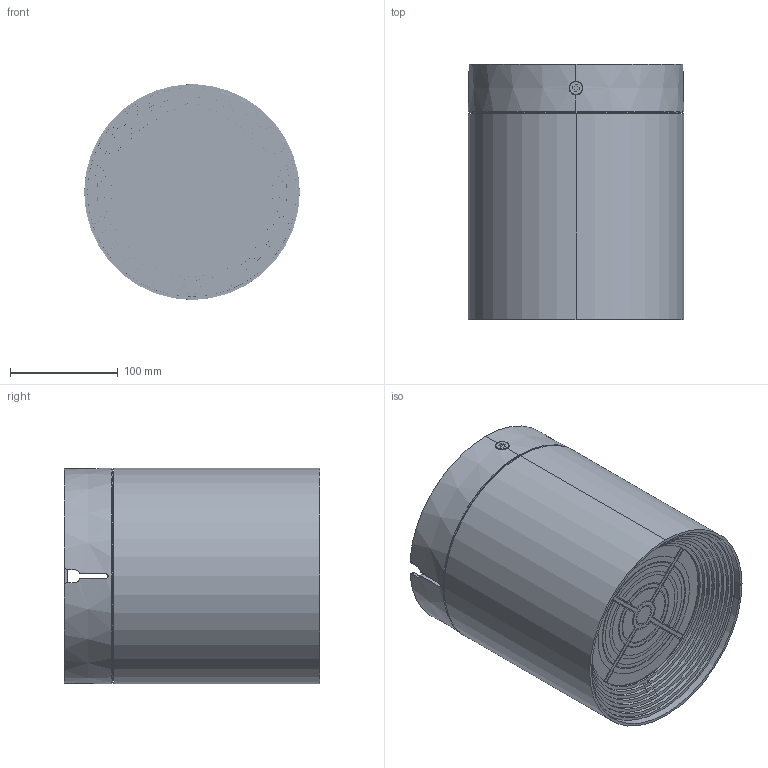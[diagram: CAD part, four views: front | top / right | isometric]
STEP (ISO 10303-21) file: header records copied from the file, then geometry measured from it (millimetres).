
FILE_DESCRIPTION((''),'2;1');
FILE_NAME('200-XIDINGDENG_ASM','2024-11-22T',('Administrator'),(''),'CREO PARAMETRIC BY PTC INC, 2014500','CREO PARAMETRIC BY PTC INC, 2014500','');
FILE_SCHEMA(('CONFIG_CONTROL_DESIGN'));
Length unit declared in the file: millimetre
Products named in the file (50): 200-DT; 200-SANREGUAN; 200-SANREBAN; 200-SANREGUAN_ASM; 200-ZHIZHANGBAN; 200-FANGSHUITIAO-00; 200-MG; 200-BOLI-01; 8ER-HOUGAI; 50WQUDONG; 8ER-XINBIZUO; 8XHGUAPIAN; 8-200-180_PG9_PART1_V3_ANY; 8-200-180_PG9_PART2_V3_ANY; 8-200-180_PG9_PART3_V3_ANY; 200-PG9_ASM; ISO4762-M6X10-8_8_2_94; HOUGAIFANGSHUITIAO; M6FT; 3BJ-JUEYUANMUZUHE; 8ER-FGQ; 8ERFANGXUANWANG; 8ER-NEIYUAN; TOU_JING_D90_H23_ZJ_1; TOU_JING_D90_H23_1; B3BU-COB_SRLB_1; TOU_JING_ZJ_B57_PC_H23_1; ICRFC0401_1; ISO7045-M3X10-4_8_1; B57-108_COB_; B57_ASM; 2UA_0611; R16_ASM; R16YABAN; JIAOSAI; PRT0013; M3X48LUOZHU; SANREQI-8ER; KA_XIAN_QI_D12_1; ISO4032-M8-6_1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
Assembly tree (67 placements, depth 4):
  200-XIDINGDENG_ASM
    200-DT
    200-SANREGUAN_ASM
      200-SANREGUAN
      200-SANREBAN
    200-ZHIZHANGBAN
    200-FANGSHUITIAO-00
    200-MG
    200-BOLI-01
    8ER-HOUGAI
    50WQUDONG
    8ER-XINBIZUO
    8XHGUAPIAN
    200-PG9_ASM
      8-200-180_PG9_PART1_V3_ANY
      8-200-180_PG9_PART2_V3_ANY
      8-200-180_PG9_PART3_V3_ANY
    ISO4762-M6X10-8_8_2_94  x12
    HOUGAIFANGSHUITIAO
    M6FT  x2
    3BJ-JUEYUANMUZUHE
    8ER-FGQ
    8ERFANGXUANWANG
    8ER-NEIYUAN
    R16_ASM
      B57_ASM
        TOU_JING_D90_H23_ZJ_1
        TOU_JING_D90_H23_1
        B3BU-COB_SRLB_1
        TOU_JING_ZJ_B57_PC_H23_1
        ICRFC0401_1  x2
        ISO7045-M3X10-4_8_1  x3
        B57-108_COB_
      2UA_0611
    R16YABAN
    JIAOSAI
    PRT0013
    M3X48LUOZHU  x3
    SANREQI-8ER
    DIAO_XIAN_ZJ_ASM_1_ASM
      KA_XIAN_QI_D12_1
      ISO4032-M8-6_1
    8ER-BAOQUAN
    LV-ZHEGUANGZHAO-8ER
    NEIQU-GYS
    SANREBAN
    BIZUO_ASM
      8ER-XINBIZUO
    XIN-SANREQI_ASM
      8ERSANREKUAI
      SANREBAN-8ER
Bounding box: 200 x 236.7 x 200.14 mm (x, y, z)
Volume: 2164366.2 mm3; surface area: 1325612.3 mm2
Topology: 60 solids, 60 shells, 4693 faces, 12864 edges, 8418 vertices
Faces by surface type: plane 2543, cylinder 1531, cone 377, torus 104, bspline 90, extrusion 28, sphere 20
Entity records: 148600 total; most frequent: CARTESIAN_POINT 36224, ORIENTED_EDGE 23740, DIRECTION 23067, EDGE_CURVE 11870, AXIS2_PLACEMENT_3D 7973, VERTEX_POINT 7838, VECTOR 7121, LINE 7093
